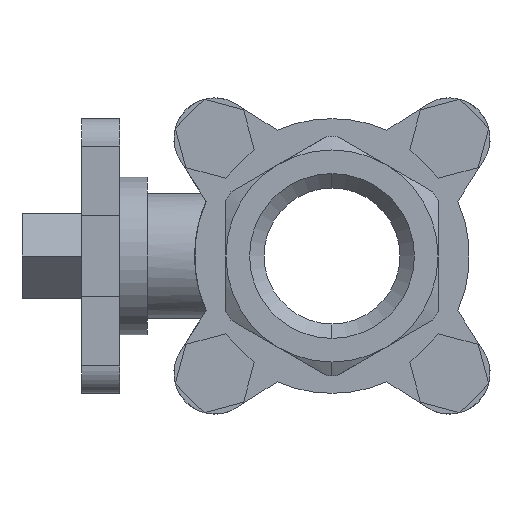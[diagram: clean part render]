
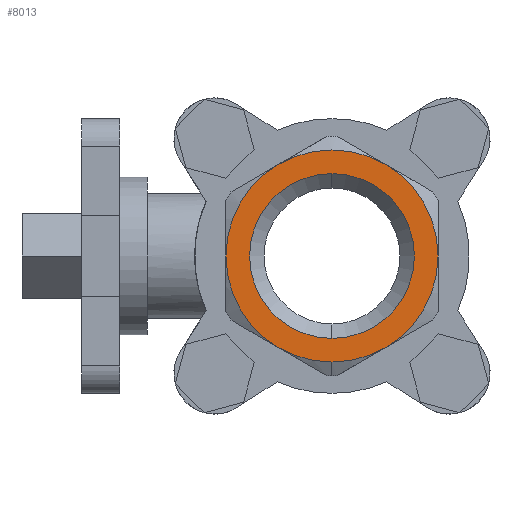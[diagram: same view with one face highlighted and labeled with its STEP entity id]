
A CAD part, left-side view. The second image highlights one B-rep face of the part: STEP entity #8013.
In plain terms, the highlighted planar face has unit normal (-1, 0, 0).
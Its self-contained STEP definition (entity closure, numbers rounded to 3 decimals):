
#281 = AXIS2_PLACEMENT_3D ( 'NONE', #7311, #3529, #7939 ) ;
#300 = CARTESIAN_POINT ( 'NONE',  ( -40., -9.75, -16.887 ) ) ;
#349 = DIRECTION ( 'NONE',  ( 0., 0., 1. ) ) ;
#393 = AXIS2_PLACEMENT_3D ( 'NONE', #1777, #6203, #2412 ) ;
#405 = CARTESIAN_POINT ( 'NONE',  ( -40., 0., -15.15 ) ) ;
#532 = DIRECTION ( 'NONE',  ( 0., 0., -1. ) ) ;
#574 = ORIENTED_EDGE ( 'NONE', *, *, #4640, .T. ) ;
#706 = CIRCLE ( 'NONE', #281, 19.5 ) ;
#708 = DIRECTION ( 'NONE',  ( -1., 0., 0. ) ) ;
#861 = VERTEX_POINT ( 'NONE', #7706 ) ;
#886 = DIRECTION ( 'NONE',  ( -1., 0., 0. ) ) ;
#989 = EDGE_CURVE ( 'NONE', #1018, #2750, #4796, .T. ) ;
#1007 = CIRCLE ( 'NONE', #6114, 19.5 ) ;
#1018 = VERTEX_POINT ( 'NONE', #300 ) ;
#1035 = CARTESIAN_POINT ( 'NONE',  ( -40., 0., 0. ) ) ;
#1246 = AXIS2_PLACEMENT_3D ( 'NONE', #5073, #1280, #5714 ) ;
#1280 = DIRECTION ( 'NONE',  ( -1., 0., 0. ) ) ;
#1441 = VERTEX_POINT ( 'NONE', #7351 ) ;
#1492 = ORIENTED_EDGE ( 'NONE', *, *, #7526, .F. ) ;
#1537 = AXIS2_PLACEMENT_3D ( 'NONE', #4478, #708, #5138 ) ;
#1664 = DIRECTION ( 'NONE',  ( 0., 0., 1. ) ) ;
#1774 = FACE_OUTER_BOUND ( 'NONE', #4481, .T. ) ;
#1777 = CARTESIAN_POINT ( 'NONE',  ( -40., 0., 0. ) ) ;
#1870 = CARTESIAN_POINT ( 'NONE',  ( -40., -19.5, 0. ) ) ;
#1979 = DIRECTION ( 'NONE',  ( -1., 0., 0. ) ) ;
#2185 = CIRCLE ( 'NONE', #5837, 19.5 ) ;
#2192 = AXIS2_PLACEMENT_3D ( 'NONE', #8074, #4314, #532 ) ;
#2236 = ORIENTED_EDGE ( 'NONE', *, *, #5161, .T. ) ;
#2244 = CIRCLE ( 'NONE', #4081, 19.5 ) ;
#2412 = DIRECTION ( 'NONE',  ( 0., 0., 1. ) ) ;
#2445 = CARTESIAN_POINT ( 'NONE',  ( -40., 9.75, 16.887 ) ) ;
#2619 = VERTEX_POINT ( 'NONE', #2989 ) ;
#2750 = VERTEX_POINT ( 'NONE', #1870 ) ;
#2815 = CARTESIAN_POINT ( 'NONE',  ( -40., 0., 0. ) ) ;
#2989 = CARTESIAN_POINT ( 'NONE',  ( -40., 0., -19.5 ) ) ;
#3453 = DIRECTION ( 'NONE',  ( 0., 0., 1. ) ) ;
#3457 = CIRCLE ( 'NONE', #393, 15.15 ) ;
#3509 = ORIENTED_EDGE ( 'NONE', *, *, #6960, .T. ) ;
#3529 = DIRECTION ( 'NONE',  ( -1., 0., 0. ) ) ;
#3869 = CARTESIAN_POINT ( 'NONE',  ( -40., 19.5, 0. ) ) ;
#3937 = VERTEX_POINT ( 'NONE', #3869 ) ;
#4011 = ORIENTED_EDGE ( 'NONE', *, *, #6734, .T. ) ;
#4081 = AXIS2_PLACEMENT_3D ( 'NONE', #4664, #886, #5310 ) ;
#4113 = ORIENTED_EDGE ( 'NONE', *, *, #989, .T. ) ;
#4138 = DIRECTION ( 'NONE',  ( -1., 0., 0. ) ) ;
#4150 = CIRCLE ( 'NONE', #1246, 19.5 ) ;
#4314 = DIRECTION ( 'NONE',  ( 1., 0., 0. ) ) ;
#4478 = CARTESIAN_POINT ( 'NONE',  ( -40., 0., 0. ) ) ;
#4481 = EDGE_LOOP ( 'NONE', ( #4011, #3509, #7941, #2236, #4113, #574, #5301 ) ) ;
#4640 = EDGE_CURVE ( 'NONE', #2750, #1441, #7503, .T. ) ;
#4664 = CARTESIAN_POINT ( 'NONE',  ( -40., 0., 0. ) ) ;
#4750 = AXIS2_PLACEMENT_3D ( 'NONE', #2815, #7236, #3453 ) ;
#4796 = CIRCLE ( 'NONE', #4750, 19.5 ) ;
#5073 = CARTESIAN_POINT ( 'NONE',  ( -40., 0., 0. ) ) ;
#5138 = DIRECTION ( 'NONE',  ( 0., 0., 1. ) ) ;
#5161 = EDGE_CURVE ( 'NONE', #2619, #1018, #2244, .T. ) ;
#5301 = ORIENTED_EDGE ( 'NONE', *, *, #6462, .T. ) ;
#5310 = DIRECTION ( 'NONE',  ( 0., 0., 1. ) ) ;
#5463 = DIRECTION ( 'NONE',  ( -1., 0., 0. ) ) ;
#5608 = VERTEX_POINT ( 'NONE', #7666 ) ;
#5714 = DIRECTION ( 'NONE',  ( 0., 0., 1. ) ) ;
#5757 = AXIS2_PLACEMENT_3D ( 'NONE', #1035, #5463, #1664 ) ;
#5771 = CARTESIAN_POINT ( 'NONE',  ( -40., 0., 0. ) ) ;
#5837 = AXIS2_PLACEMENT_3D ( 'NONE', #7919, #4138, #349 ) ;
#5926 = CIRCLE ( 'NONE', #5757, 15.15 ) ;
#5984 = VERTEX_POINT ( 'NONE', #405 ) ;
#6114 = AXIS2_PLACEMENT_3D ( 'NONE', #5771, #1979, #6404 ) ;
#6203 = DIRECTION ( 'NONE',  ( -1., 0., 0. ) ) ;
#6404 = DIRECTION ( 'NONE',  ( 0., 0., 1. ) ) ;
#6462 = EDGE_CURVE ( 'NONE', #1441, #7548, #2185, .T. ) ;
#6734 = EDGE_CURVE ( 'NONE', #7548, #3937, #1007, .T. ) ;
#6834 = PLANE ( 'NONE',  #2192 ) ;
#6960 = EDGE_CURVE ( 'NONE', #3937, #861, #706, .T. ) ;
#7015 = FACE_BOUND ( 'NONE', #7056, .T. ) ;
#7056 = EDGE_LOOP ( 'NONE', ( #1492, #7675 ) ) ;
#7236 = DIRECTION ( 'NONE',  ( -1., 0., 0. ) ) ;
#7311 = CARTESIAN_POINT ( 'NONE',  ( -40., 0., 0. ) ) ;
#7351 = CARTESIAN_POINT ( 'NONE',  ( -40., -9.75, 16.887 ) ) ;
#7503 = CIRCLE ( 'NONE', #1537, 19.5 ) ;
#7526 = EDGE_CURVE ( 'NONE', #5608, #5984, #3457, .T. ) ;
#7548 = VERTEX_POINT ( 'NONE', #2445 ) ;
#7644 = EDGE_CURVE ( 'NONE', #861, #2619, #4150, .T. ) ;
#7666 = CARTESIAN_POINT ( 'NONE',  ( -40., 0., 15.15 ) ) ;
#7675 = ORIENTED_EDGE ( 'NONE', *, *, #7898, .F. ) ;
#7706 = CARTESIAN_POINT ( 'NONE',  ( -40., 9.75, -16.887 ) ) ;
#7898 = EDGE_CURVE ( 'NONE', #5984, #5608, #5926, .T. ) ;
#7919 = CARTESIAN_POINT ( 'NONE',  ( -40., 0., 0. ) ) ;
#7939 = DIRECTION ( 'NONE',  ( 0., 0., 1. ) ) ;
#7941 = ORIENTED_EDGE ( 'NONE', *, *, #7644, .T. ) ;
#8013 = ADVANCED_FACE ( 'NONE', ( #7015, #1774 ), #6834, .F. ) ;
#8074 = CARTESIAN_POINT ( 'NONE',  ( -40., 15.15, 0. ) ) ;
